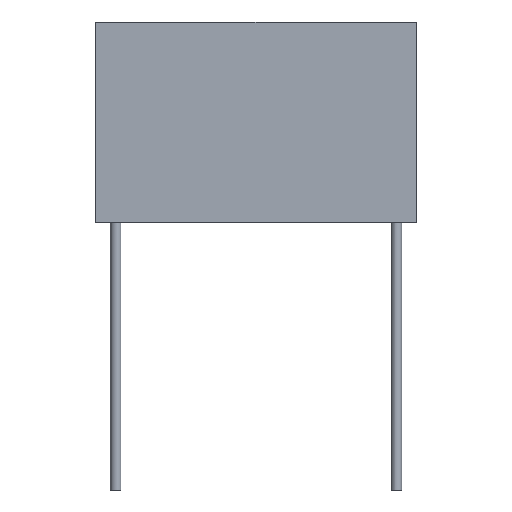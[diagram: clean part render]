
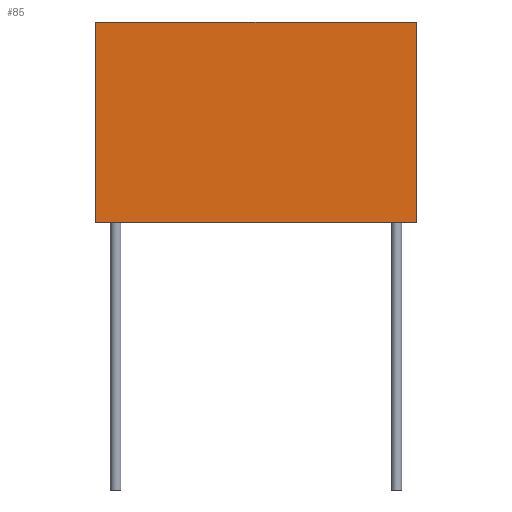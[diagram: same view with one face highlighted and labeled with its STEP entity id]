
A CAD part, front view. The second image highlights one B-rep face of the part: STEP entity #85.
In plain terms, the highlighted planar face has unit normal (0, -1, 0).
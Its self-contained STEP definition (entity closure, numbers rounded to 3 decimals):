
#85=ADVANCED_FACE('',(#173),#175,.F.);
#173=FACE_BOUND('',#174,.T.);
#174=EDGE_LOOP('',(#238,#239,#240,#241,#242,#243));
#175=PLANE('',#176);
#176=AXIS2_PLACEMENT_3D('',#177,#178,#179);
#177=CARTESIAN_POINT('',(0.,-1.4,0.));
#178=DIRECTION('',(0.,1.,0.));
#179=DIRECTION('',(-1.,0.,0.));
#238=ORIENTED_EDGE('',*,*,#274,.F.);
#239=ORIENTED_EDGE('',*,*,#267,.F.);
#240=ORIENTED_EDGE('',*,*,#264,.F.);
#241=ORIENTED_EDGE('',*,*,#271,.F.);
#242=ORIENTED_EDGE('',*,*,#275,.F.);
#243=ORIENTED_EDGE('',*,*,#276,.F.);
#264=EDGE_CURVE('',#283,#286,#287,.T.);
#267=EDGE_CURVE('',#286,#291,#292,.T.);
#271=EDGE_CURVE('',#297,#283,#299,.T.);
#274=EDGE_CURVE('',#291,#304,#305,.T.);
#275=EDGE_CURVE('',#306,#297,#307,.T.);
#276=EDGE_CURVE('',#304,#306,#308,.T.);
#283=VERTEX_POINT('',#317);
#286=VERTEX_POINT('',#326);
#287=LINE('',#327,#328);
#291=VERTEX_POINT('',#339);
#292=LINE('',#340,#341);
#297=VERTEX_POINT('',#351);
#299=LINE('',#355,#356);
#304=VERTEX_POINT('',#368);
#305=LINE('',#369,#370);
#306=VERTEX_POINT('',#372);
#307=LINE('',#373,#374);
#308=LINE('',#376,#377);
#317=CARTESIAN_POINT('',(10.5,-1.4,0.));
#326=CARTESIAN_POINT('',(-10.5,-1.4,0.));
#327=CARTESIAN_POINT('',(10.5,-1.4,0.));
#328=VECTOR('',#329,1.);
#329=DIRECTION('',(-1.,0.,0.));
#339=CARTESIAN_POINT('',(-12.,-1.4,0.));
#340=CARTESIAN_POINT('',(-10.5,-1.4,0.));
#341=VECTOR('',#342,1.);
#342=DIRECTION('',(-1.,0.,0.));
#351=CARTESIAN_POINT('',(12.,-1.4,0.));
#355=CARTESIAN_POINT('',(12.,-1.4,0.));
#356=VECTOR('',#357,1.);
#357=DIRECTION('',(-1.,0.,0.));
#368=CARTESIAN_POINT('',(-12.,-1.4,15.));
#369=CARTESIAN_POINT('',(-12.,-1.4,0.));
#370=VECTOR('',#371,1.);
#371=DIRECTION('',(0.,0.,1.));
#372=CARTESIAN_POINT('',(12.,-1.4,15.));
#373=CARTESIAN_POINT('',(12.,-1.4,15.));
#374=VECTOR('',#375,1.);
#375=DIRECTION('',(0.,0.,-1.));
#376=CARTESIAN_POINT('',(-12.,-1.4,15.));
#377=VECTOR('',#378,1.);
#378=DIRECTION('',(1.,0.,0.));
